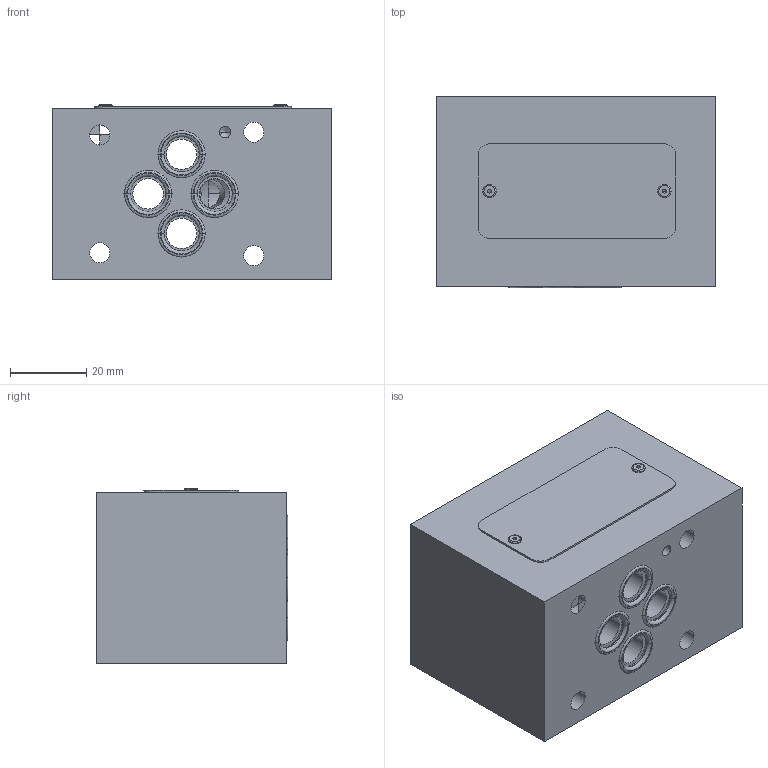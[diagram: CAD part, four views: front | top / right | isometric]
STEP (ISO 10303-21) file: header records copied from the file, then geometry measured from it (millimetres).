
FILE_DESCRIPTION((''),'2;1');
FILE_NAME('1000134452_ASM','2023-10-12T',('l.soukupova'),(''),'PRO/ENGINEER BY PARAMETRIC TECHNOLOGY CORPORATION, 2015440','PRO/ENGINEER BY PARAMETRIC TECHNOLOGY CORPORATION, 2015440','');
FILE_SCHEMA(('AUTOMOTIVE_DESIGN { 1 0 10303 214 1 1 1 1 }'));
Length unit declared in the file: millimetre
Products named in the file (5): 1000134388; RD_LABEL_25X52_159703; AF_1932_16485; ORAR00012_201524; 1000134452_ASM
Assembly tree (8 placements, depth 2):
  1000134452_ASM
    1000134388
    RD_LABEL_25X52_159703
    AF_1932_16485  x2
    ORAR00012_201524  x4
Bounding box: 73.5 x 50.38 x 46 mm (x, y, z)
Volume: 144704.9 mm3; surface area: 32124.5 mm2
Topology: 8 solids, 11 shells, 171 faces, 528 edges, 447 vertices
Faces by surface type: cylinder 82, torus 36, plane 34, cone 19
Entity records: 7367 total; most frequent: CARTESIAN_POINT 1331, DIRECTION 883, ORIENTED_EDGE 550, PRESENTATION_STYLE_ASSIGNMENT 512, STYLED_ITEM 459, CURVE_STYLE 453, AXIS2_PLACEMENT_3D 337, EDGE_CURVE 281
